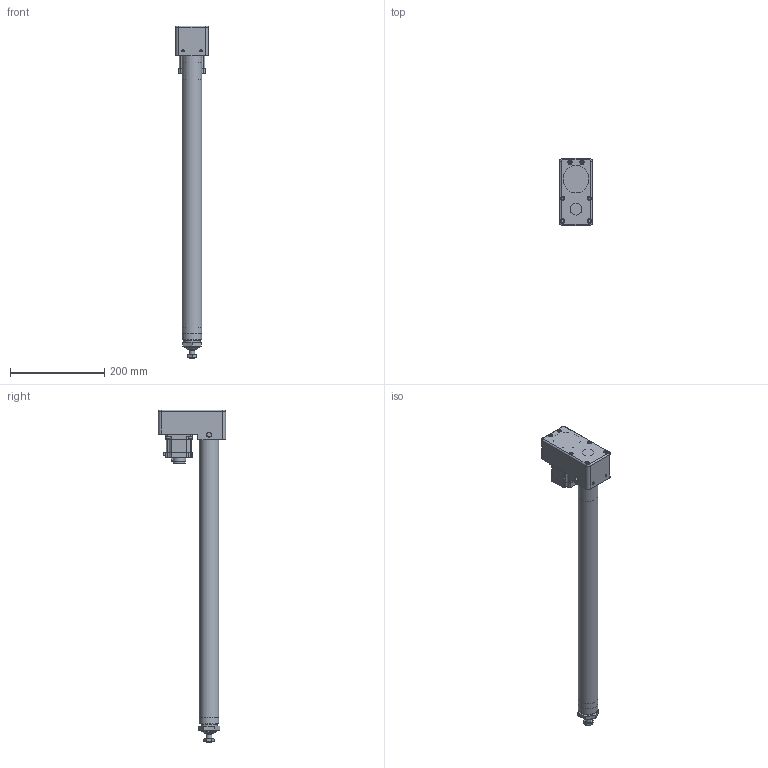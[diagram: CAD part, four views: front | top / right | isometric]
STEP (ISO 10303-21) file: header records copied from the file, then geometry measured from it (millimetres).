
FILE_DESCRIPTION (( 'STEP AP203' ), '1' );
FILE_NAME ('ERD15_SN01_SM525.000_ERD-479153-1.step', '2025-01-16T12:55:49', ( '' ), ( '' ), 'SwSTEP 2.0', 'SolidWorks 2024', '' );
FILE_SCHEMA (( 'CONFIG_CONTROL_DESIGN' ));
Length unit declared in the file: inch
Products named in the file (6): 21921023_ERD15_SN01_SM525.000_ERD-479153-1; Base_ERD15_SN01_SM525.000_ERD-479153-1; ERD15_SN01_SM525.000_ERD-479153-1; tempJoin21_83169035_ERD15_SN01_SM525.000_ERD-479153-1; 21921020_ERD15_SN01_SM525.000_ERD-479153-1; tempJoin1_21929004_ERD15_SN01_SM525.000_ERD-479153-1
Assembly tree (5 placements, depth 2):
  ERD15_SN01_SM525.000_ERD-479153-1
    tempJoin21_83169035_ERD15_SN01_SM525.000_ERD-479153-1
    21921020_ERD15_SN01_SM525.000_ERD-479153-1
    tempJoin1_21929004_ERD15_SN01_SM525.000_ERD-479153-1
    21921023_ERD15_SN01_SM525.000_ERD-479153-1
    Base_ERD15_SN01_SM525.000_ERD-479153-1
Bounding box: 69.85 x 142.37 x 704.04 mm (x, y, z)
Volume: 949176.3 mm3; surface area: 325611.1 mm2
Topology: 9 solids, 17 shells, 811 faces, 2002 edges, 1289 vertices
Faces by surface type: plane 502, cylinder 217, cone 74, torus 11, sphere 6, bspline 1
Full cylindrical faces by diameter (mm): 1 x6, 2.647 x1, 3.505 x1, 4.2 x10, 5 x6, 5.1 x4, 5.74 x1, 6.35 x3, 8.5 x10, 9.144 x6, 9.347 x1, 9.519 x2, 10.346 x1, 12 x1, 19.05 x1, 19.075 x1, 19.812 x1, 21.844 x1, 25.4 x2, 26.391 x1, 26.4 x1, 26.492 x1, 27.762 x1, 27.94 x2, 31.992 x1, 32.5 x1, 34 x1, 38.075 x1, 39.878 x1, 40.075 x1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
Entity records: 23705 total; most frequent: CARTESIAN_POINT 4453, DIRECTION 3976, ORIENTED_EDGE 3602, EDGE_CURVE 1801, AXIS2_PLACEMENT_3D 1440, VERTEX_POINT 1215, LINE 1096, VECTOR 1096
